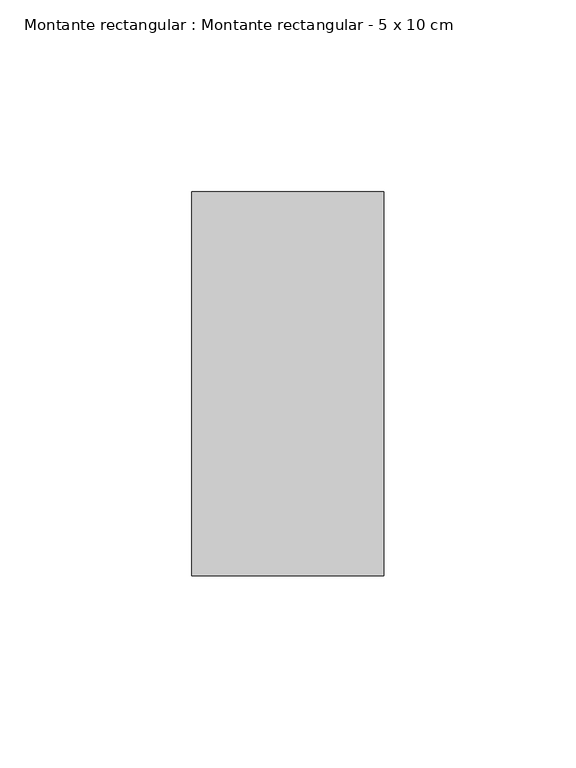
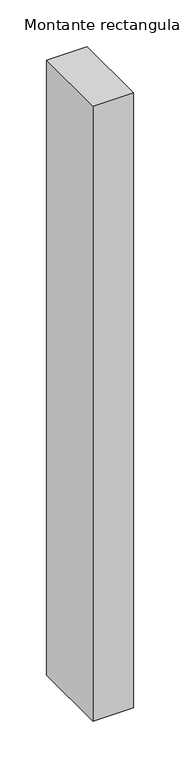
"""IFC4 building model written with IfcOpenShell, lengths in millimetres: member geometry, Montante rectangular : Montante rectangular - 5 x 10 cm."""

import ifcopenshell
import ifcopenshell.guid

model = None  # the IFC model being written
_history = None  # IfcOwnerHistory: only IFC2X3 demands one
_inside = {}  # id of a spatial element -> (the spatial element, [elements in it])
_under = {}  # id of a project, library or spatial element -> (it, [spatial elements below it])
_declared = {}  # id of a project -> (the project, [libraries it declares])
_typed = {}  # id of a type object -> (the type object, [elements of that type])
_made_of = {}  # id of a material, layer set ... -> (it, [elements and type objects made of it])


def new_model(schema):
    """Start an empty IFC model of exactly this schema.

    Asked for "IFC4X3", IfcOpenShell would pick the latest addendum, in which some entities
    have other attributes; the version numbers below select the first issue.
    IFC2X3 requires an IfcOwnerHistory on every rooted entity: one is made here for all.
    """
    global model, _history
    if schema == "IFC4X3":
        model = ifcopenshell.file(schema_version=(4, 3, 0, 0))
    else:
        model = ifcopenshell.file(schema=schema)
    _inside.clear()
    _under.clear()
    _declared.clear()
    _typed.clear()
    _made_of.clear()
    _history = None
    if model.schema == "IFC2X3":
        org = make("IfcOrganization", Name="unknown")
        user = make(
            "IfcPersonAndOrganization",
            ThePerson=make("IfcPerson", FamilyName="unknown"),
            TheOrganization=org,
        )
        app = make(
            "IfcApplication",
            ApplicationDeveloper=org,
            Version="unknown",
            ApplicationFullName="unknown",
            ApplicationIdentifier="unknown",
        )
        _history = make(
            "IfcOwnerHistory",
            OwningUser=user,
            OwningApplication=app,
            ChangeAction="ADDED",
            CreationDate=0,
        )
    return model


def make(cls, **values):
    """One entity of the class cls with the attributes given. An attribute that is None is left unset."""
    return model.create_entity(
        cls, **{name: value for name, value in values.items() if value is not None}
    )


def rooted(cls, **values):
    """An entity with a GlobalId (a new one), such as an element, a storey or a relation."""
    return make(cls, GlobalId=ifcopenshell.guid.new(), OwnerHistory=_history, **values)


def si_unit(unit_type, name, prefix=None):
    """IfcSIUnit, for example si_unit("LENGTHUNIT", "METRE", prefix="MILLI")."""
    return make("IfcSIUnit", UnitType=unit_type, Prefix=prefix, Name=name)


def assignment(units):
    """IfcUnitAssignment: the units of a project."""
    return None if units is None else make("IfcUnitAssignment", Units=units)


def point(xyz):
    """IfcCartesianPoint."""
    return None if xyz is None else make("IfcCartesianPoint", Coordinates=xyz)


def direction(xyz):
    """IfcDirection."""
    return None if xyz is None else make("IfcDirection", DirectionRatios=xyz)


def frame(location, z_axis=None, x_axis=None):
    """IfcAxis2Placement3D, a coordinate frame: its origin and axes. An axis left out is left unset."""
    return make(
        "IfcAxis2Placement3D",
        Location=point(location),
        Axis=direction(z_axis),
        RefDirection=direction(x_axis),
    )


def origin():
    """The frame at (0, 0, 0) with its axes left unset."""
    return frame((0.0, 0.0, 0.0))


def place(relative_to, where):
    """IfcLocalPlacement: puts the frame where relative to a parent placement (None: the world)."""
    return make(
        "IfcLocalPlacement", PlacementRelTo=relative_to, RelativePlacement=where
    )


def context(
    kind, dimensions, precision=None, world=None, true_north=None, identifier=None
):
    """IfcGeometricRepresentationContext, for example the 3D "Model" context."""
    return make(
        "IfcGeometricRepresentationContext",
        ContextIdentifier=identifier,
        ContextType=kind,
        CoordinateSpaceDimension=dimensions,
        Precision=precision,
        WorldCoordinateSystem=world,
        TrueNorth=true_north,
    )


def project(units=None, contexts=None):
    """IfcProject with its units and contexts."""
    return rooted(
        "IfcProject",
        Name="project",
        RepresentationContexts=contexts,
        UnitsInContext=assignment(units),
    )


def spatial(cls, under=None, at=None, **own):
    """A site, building, storey or space (cls), placed at a placement, below another one or the project."""
    s = rooted(cls, ObjectPlacement=at, **own)
    if under is not None:
        _under.setdefault(under.id(), (under, []))[1].append(s)
    return s


def polyline(points):
    """IfcPolyline through the points."""
    return make("IfcPolyline", Points=[point(p) for p in points])


def outline(outer, holes=None, kind="AREA"):
    """IfcArbitraryClosedProfileDef: a profile drawn as a closed curve; with holes, ...WithVoids."""
    if holes is None:
        return make("IfcArbitraryClosedProfileDef", ProfileType=kind, OuterCurve=outer)
    return make(
        "IfcArbitraryProfileDefWithVoids",
        ProfileType=kind,
        OuterCurve=outer,
        InnerCurves=holes,
    )


def extrude(swept, where, along, depth):
    """IfcExtrudedAreaSolid: the profile swept, set in the frame where, extruded along a direction by depth."""
    return make(
        "IfcExtrudedAreaSolid",
        SweptArea=swept,
        Position=where,
        ExtrudedDirection=direction(along),
        Depth=depth,
    )


def shape(context_of_items, identifier, shape_type, items):
    """IfcShapeRepresentation: the items that make up one representation, for example the "Body"."""
    return make(
        "IfcShapeRepresentation",
        ContextOfItems=context_of_items,
        RepresentationIdentifier=identifier,
        RepresentationType=shape_type,
        Items=items,
    )


def source(mapping_origin, context_of_items, identifier, shape_type, items):
    """IfcRepresentationMap: a shape defined once, which mapped items show again and again."""
    return make(
        "IfcRepresentationMap",
        MappingOrigin=mapping_origin,
        MappedRepresentation=shape(context_of_items, identifier, shape_type, items),
    )


def transform(
    local_origin,
    x_axis=None,
    y_axis=None,
    z_axis=None,
    scale=None,
    scale2=None,
    scale3=None,
    uniform=True,
):
    """IfcCartesianTransformationOperator3D, or its non-uniform kind. x_axis, y_axis, z_axis: its Axis1, 2, 3."""
    if uniform:
        return make(
            "IfcCartesianTransformationOperator3D",
            Axis1=direction(x_axis),
            Axis2=direction(y_axis),
            LocalOrigin=point(local_origin),
            Scale=scale,
            Axis3=direction(z_axis),
        )
    return make(
        "IfcCartesianTransformationOperator3DnonUniform",
        Axis1=direction(x_axis),
        Axis2=direction(y_axis),
        LocalOrigin=point(local_origin),
        Scale=scale,
        Axis3=direction(z_axis),
        Scale2=scale2,
        Scale3=scale3,
    )


def mapped(mapping_source, mapping_target):
    """IfcMappedItem: shows the shape of a source again, moved by a transform."""
    return make(
        "IfcMappedItem", MappingSource=mapping_source, MappingTarget=mapping_target
    )


def made_of(thing, what):
    """Note that an element or type object is made of a material, layer set ...; save() writes the relation."""
    if what is not None:
        _made_of.setdefault(what.id(), (what, []))[1].append(thing)
    return thing


def element(
    cls,
    number,
    at=None,
    inside=None,
    cuts=None,
    type_object=None,
    material=None,
    context=None,
    identifier="Body",
    shape_type=None,
    held_by="IfcProductDefinitionShape",
    body=None,
    shapes=None,
    **own,
):
    """One element of the class cls, such as IfcWall. Its Tag is "e" and its number.

    at: its placement. inside: the storey or other place that contains it. cuts: it is an
    opening in that element (IfcRelVoidsElement). A single representation is given by context,
    identifier, shape_type and body (its items); several are given by shapes. held_by: the class
    of the entity that holds the representations. save() writes the other relations.
    """
    e = rooted(cls, Tag="e%d" % number, ObjectPlacement=at, **own)
    if body is not None:
        shapes = [shape(context, identifier, shape_type, body)]
    if shapes is not None:
        e.Representation = make(held_by, Representations=shapes)
    if inside is not None:
        _inside.setdefault(inside.id(), (inside, []))[1].append(e)
    if cuts is not None:
        rooted(
            "IfcRelVoidsElement", RelatingBuildingElement=cuts, RelatedOpeningElement=e
        )
    if type_object is not None:
        _typed.setdefault(type_object.id(), (type_object, []))[1].append(e)
    return made_of(e, material)


def aggregate(whole, parts):
    """IfcRelAggregates: a whole, such as a stair, and the parts it consists of."""
    return rooted("IfcRelAggregates", RelatingObject=whole, RelatedObjects=parts)


def save(model, path):
    """Write the relations noted so far, then the file.

    IfcRelAggregates (storeys below a building ...), IfcRelContainedInSpatialStructure (elements
    in a storey), IfcRelDefinesByType, IfcRelAssociatesMaterial and IfcRelDeclares: one each for
    every whole, place, type object, material and project.
    """
    for whole, parts in _under.values():
        aggregate(whole, parts)
    for where, things in _inside.values():
        rooted(
            "IfcRelContainedInSpatialStructure",
            RelatedElements=things,
            RelatingStructure=where,
        )
    for kind, things in _typed.values():
        rooted("IfcRelDefinesByType", RelatedObjects=things, RelatingType=kind)
    for what, things in _made_of.values():
        rooted("IfcRelAssociatesMaterial", RelatedObjects=things, RelatingMaterial=what)
    for by, libraries in _declared.values():
        rooted("IfcRelDeclares", RelatingContext=by, RelatedDefinitions=libraries)
    model.write(path)


def montante_rectangular_montante_rectangular_5_x_10_cm_c0e4c1cf(model_context):
    return source(origin(), model_context, "Body", "SweptSolid", [
        extrude(outline(polyline([(-50.0, 50.0), (0.0, 50.0), (0.0, -50.0), (-50.0, -50.0), (-50.0, 50.0)])), frame((0.0, 0.0, -805.0), z_axis=(0.0, 0.0, 1.0), x_axis=(1.0, 0.0, 0.0)), (0.0, 0.0, 1.0), 805.0),
    ])


if __name__ == "__main__":
    model = new_model("IFC4")
    model_context = context("Model", 3, world=origin())
    ifc_project = project(units=[si_unit("LENGTHUNIT", "METRE", prefix="MILLI")], contexts=[model_context])
    site = spatial("IfcSite", under=ifc_project)
    building = spatial("IfcBuilding", under=site)
    placement = place(None, origin())
    montante_rectangular_montante_rectangular_5_x_10_cm_shape = montante_rectangular_montante_rectangular_5_x_10_cm_c0e4c1cf(model_context)
    element("IfcMember", 1, ObjectType="Montante rectangular : Montante rectangular - 5 x 10 cm", at=placement, inside=building, context=model_context, shape_type="MappedRepresentation", body=[
        mapped(montante_rectangular_montante_rectangular_5_x_10_cm_shape, transform((0.0, 0.0, 0.0), x_axis=(1.0, 0.0, 0.0), y_axis=(0.0, 1.0, 0.0), z_axis=(0.0, 0.0, 1.0))),
    ])
    save(model, "model.ifc")
